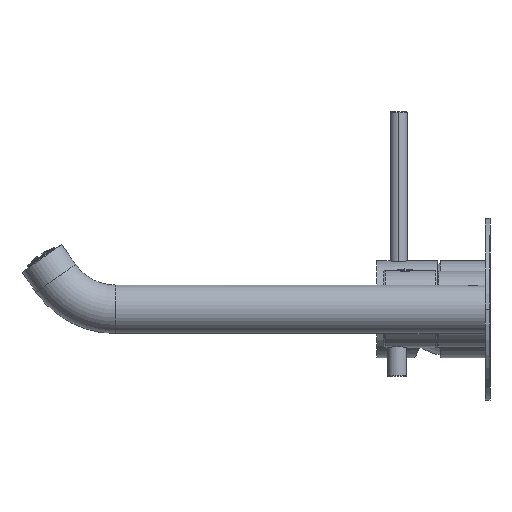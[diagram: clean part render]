
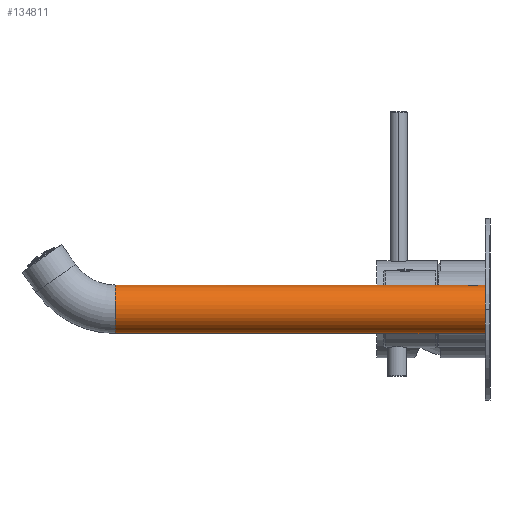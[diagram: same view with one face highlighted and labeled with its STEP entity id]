
A CAD part, left-side view. The second image highlights one B-rep face of the part: STEP entity #134811.
In plain terms, the highlighted cylindrical face has radius 10 mm (diameter 20 mm), a partial arc.
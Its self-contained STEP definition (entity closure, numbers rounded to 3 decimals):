
#73513=CARTESIAN_POINT('',(-220.,178.53,0.));
#73514=DIRECTION('',(0.,1.,0.));
#73515=DIRECTION('',(0.,0.,-1.));
#73516=AXIS2_PLACEMENT_3D('',#73513,#73514,#73515);
#73523=CARTESIAN_POINT('',(-220.,25.9,0.));
#73524=DIRECTION('',(0.,1.,0.));
#73525=DIRECTION('',(0.,0.,-1.));
#73526=AXIS2_PLACEMENT_3D('',#73523,#73524,#73525);
#73528=DIRECTION('',(0.,1.,0.));
#73529=VECTOR('',#73528,152.63);
#73530=CARTESIAN_POINT('',(-220.,25.9,-10.));
#73531=LINE('',#73530,#73529);
#73532=CARTESIAN_POINT('',(-220.,28.8,10.));
#73533=CARTESIAN_POINT('',(-220.043,28.8,10.));
#73534=CARTESIAN_POINT('',(-220.128,28.803,
9.999));
#73535=CARTESIAN_POINT('',(-220.256,28.814,
9.997));
#73536=CARTESIAN_POINT('',(-220.383,28.834,
9.993));
#73537=CARTESIAN_POINT('',(-220.509,28.861,
9.987));
#73538=CARTESIAN_POINT('',(-220.633,28.896,
9.98));
#73539=CARTESIAN_POINT('',(-220.755,28.939,
9.972));
#73540=CARTESIAN_POINT('',(-220.874,28.989,
9.962));
#73541=CARTESIAN_POINT('',(-220.99,29.047,
9.951));
#73542=CARTESIAN_POINT('',(-221.103,29.111,
9.939));
#73543=CARTESIAN_POINT('',(-221.212,29.183,
9.927));
#73544=CARTESIAN_POINT('',(-221.316,29.261,
9.913));
#73545=CARTESIAN_POINT('',(-221.415,29.346,
9.9));
#73546=CARTESIAN_POINT('',(-221.509,29.437,
9.886));
#73547=CARTESIAN_POINT('',(-221.597,29.534,
9.872));
#73548=CARTESIAN_POINT('',(-221.678,29.636,
9.858));
#73549=CARTESIAN_POINT('',(-221.754,29.742,
9.845));
#73550=CARTESIAN_POINT('',(-221.822,29.853,
9.833));
#73551=CARTESIAN_POINT('',(-221.883,29.967,
9.821));
#73552=CARTESIAN_POINT('',(-221.937,30.085,
9.811));
#73553=CARTESIAN_POINT('',(-221.983,30.206,
9.801));
#73554=CARTESIAN_POINT('',(-222.022,30.329,
9.793));
#73555=CARTESIAN_POINT('',(-222.053,30.454,
9.787));
#73556=CARTESIAN_POINT('',(-222.077,30.58,
9.782));
#73557=CARTESIAN_POINT('',(-222.092,30.707,
9.779));
#73558=CARTESIAN_POINT('',(-222.1,30.835,
9.777));
#73559=CARTESIAN_POINT('',(-222.1,30.963,
9.777));
#73560=CARTESIAN_POINT('',(-222.093,31.092,
9.779));
#73561=CARTESIAN_POINT('',(-222.077,31.219,
9.782));
#73562=CARTESIAN_POINT('',(-222.054,31.345,
9.787));
#73563=CARTESIAN_POINT('',(-222.022,31.47,
9.793));
#73564=CARTESIAN_POINT('',(-221.984,31.593,
9.801));
#73565=CARTESIAN_POINT('',(-221.937,31.714,
9.811));
#73566=CARTESIAN_POINT('',(-221.883,31.832,
9.821));
#73567=CARTESIAN_POINT('',(-221.822,31.946,
9.833));
#73568=CARTESIAN_POINT('',(-221.754,32.057,
9.845));
#73569=CARTESIAN_POINT('',(-221.679,32.164,
9.858));
#73570=CARTESIAN_POINT('',(-221.597,32.266,
9.872));
#73571=CARTESIAN_POINT('',(-221.509,32.362,
9.886));
#73572=CARTESIAN_POINT('',(-221.415,32.453,
9.899));
#73573=CARTESIAN_POINT('',(-221.316,32.538,
9.913));
#73574=CARTESIAN_POINT('',(-221.212,32.617,
9.926));
#73575=CARTESIAN_POINT('',(-221.103,32.688,
9.939));
#73576=CARTESIAN_POINT('',(-220.99,32.753,
9.951));
#73577=CARTESIAN_POINT('',(-220.874,32.811,
9.962));
#73578=CARTESIAN_POINT('',(-220.755,32.861,
9.972));
#73579=CARTESIAN_POINT('',(-220.633,32.904,
9.98));
#73580=CARTESIAN_POINT('',(-220.509,32.939,
9.987));
#73581=CARTESIAN_POINT('',(-220.383,32.966,
9.993));
#73582=CARTESIAN_POINT('',(-220.256,32.986,
9.997));
#73583=CARTESIAN_POINT('',(-220.128,32.997,
9.999));
#73584=CARTESIAN_POINT('',(-220.043,33.,10.));
#73585=CARTESIAN_POINT('',(-220.,33.,10.));
#79201=DIRECTION('',(0.,1.,0.));
#79202=VECTOR('',#79201,2.9);
#79203=CARTESIAN_POINT('',(-220.,25.9,10.));
#79204=LINE('',#79203,#79202);
#79260=DIRECTION('',(0.,1.,0.));
#79261=VECTOR('',#79260,145.53);
#79262=CARTESIAN_POINT('',(-220.,33.,10.));
#79263=LINE('',#79262,#79261);
#112104=CARTESIAN_POINT('',(-220.,178.53,-10.));
#112105=CARTESIAN_POINT('',(-220.,178.53,10.));
#112106=VERTEX_POINT('',#112104);
#112107=VERTEX_POINT('',#112105);
#112152=VERTEX_POINT('',#73532);
#112153=VERTEX_POINT('',#73585);
#112326=CARTESIAN_POINT('',(-220.,25.9,-10.));
#112327=CARTESIAN_POINT('',(-220.,25.9,10.));
#112328=VERTEX_POINT('',#112326);
#112329=VERTEX_POINT('',#112327);
#134793=CARTESIAN_POINT('',(-220.,25.9,0.));
#134794=DIRECTION('',(0.,1.,0.));
#134795=DIRECTION('',(0.,0.,-1.));
#134796=AXIS2_PLACEMENT_3D('',#134793,#134794,#134795);
#134797=CYLINDRICAL_SURFACE('',#134796,10.);
#134799=ORIENTED_EDGE('',*,*,#134798,.F.);
#134801=ORIENTED_EDGE('',*,*,#134800,.T.);
#134802=ORIENTED_EDGE('',*,*,#134783,.T.);
#134804=ORIENTED_EDGE('',*,*,#134803,.F.);
#134806=ORIENTED_EDGE('',*,*,#134805,.F.);
#134808=ORIENTED_EDGE('',*,*,#134807,.F.);
#134809=EDGE_LOOP('',(#134799,#134801,#134802,#134804,#134806,#134808));
#134810=FACE_OUTER_BOUND('',#134809,.F.);
#134811=ADVANCED_FACE('',(#134810),#134797,.T.);
#73517=CIRCLE('',#73516,10.);
#73527=CIRCLE('',#73526,10.);
#73586=B_SPLINE_CURVE_WITH_KNOTS('',3,(#73532,#73533,#73534,#73535,#73536,
#73537,#73538,#73539,#73540,#73541,#73542,#73543,#73544,#73545,#73546,#73547,
#73548,#73549,#73550,#73551,#73552,#73553,#73554,#73555,#73556,#73557,#73558,
#73559,#73560,#73561,#73562,#73563,#73564,#73565,#73566,#73567,#73568,#73569,
#73570,#73571,#73572,#73573,#73574,#73575,#73576,#73577,#73578,#73579,#73580,
#73581,#73582,#73583,#73584,#73585),.UNSPECIFIED.,.F.,.F.,(4,1,1,1,1,1,1,1,1,1,
1,1,1,1,1,1,1,1,1,1,1,1,1,1,1,1,1,1,1,1,1,1,1,1,1,1,1,1,1,1,1,1,1,1,1,1,1,1,1,1,
1,4),(0.,0.02,0.039,0.059,
0.078,0.098,0.118,0.137,
0.157,0.176,0.196,0.216,
0.235,0.255,0.275,0.294,
0.314,0.333,0.353,0.373,
0.392,0.412,0.431,0.451,
0.471,0.49,0.51,0.529,
0.549,0.569,0.588,0.608,
0.627,0.647,0.667,0.686,
0.706,0.725,0.745,0.765,
0.784,0.804,0.824,0.843,
0.863,0.882,0.902,0.922,
0.941,0.961,0.98,1.),.UNSPECIFIED.);
#134783=EDGE_CURVE('',#112106,#112107,#73517,.T.);
#134798=EDGE_CURVE('',#112328,#112329,#73527,.T.);
#134800=EDGE_CURVE('',#112328,#112106,#73531,.T.);
#134803=EDGE_CURVE('',#112153,#112107,#79263,.T.);
#134805=EDGE_CURVE('',#112152,#112153,#73586,.T.);
#134807=EDGE_CURVE('',#112329,#112152,#79204,.T.);
